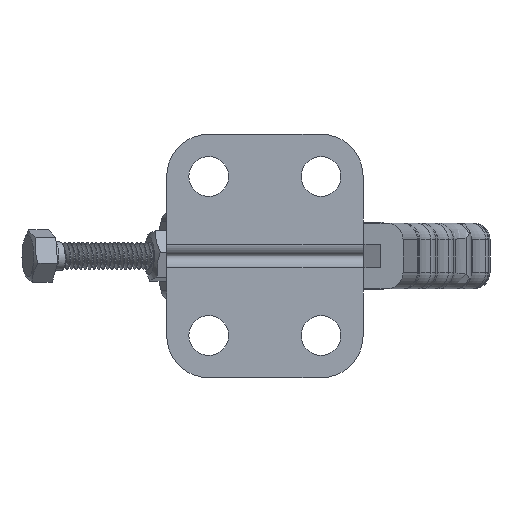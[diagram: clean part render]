
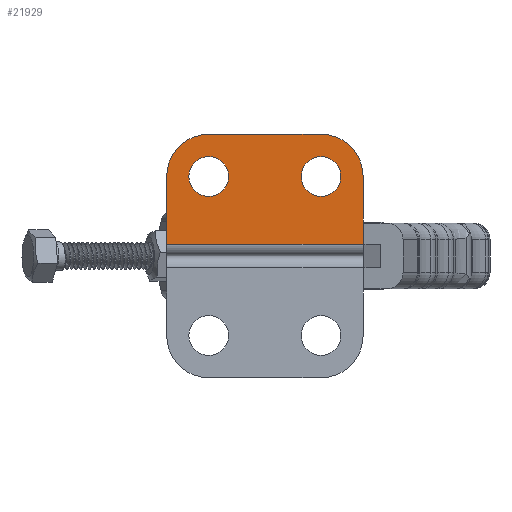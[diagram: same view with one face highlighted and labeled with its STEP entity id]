
A CAD part, front view. The second image highlights one B-rep face of the part: STEP entity #21929.
In plain terms, the highlighted planar face has unit normal (0, -1, 0).
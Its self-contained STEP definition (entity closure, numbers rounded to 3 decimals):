
#1215=FACE_BOUND('',#7336,.T.);
#1216=FACE_BOUND('',#7337,.T.);
#1330=PLANE('',#23419);
#2146=LINE('',#39718,#4065);
#2150=LINE('',#39725,#4069);
#2151=LINE('',#39727,#4070);
#2152=LINE('',#39731,#4071);
#4065=VECTOR('',#25105,1000.);
#4069=VECTOR('',#25111,1000.);
#4070=VECTOR('',#25112,1000.);
#4071=VECTOR('',#25115,1000.);
#6088=FACE_OUTER_BOUND('',#7335,.T.);
#7335=EDGE_LOOP('',(#15692,#15693,#15694,#15695,#15696,#15697));
#7336=EDGE_LOOP('',(#15698,#15699));
#7337=EDGE_LOOP('',(#15700,#15701));
#9383=CIRCLE('',#23392,4.25);
#9384=CIRCLE('',#23393,4.25);
#9387=CIRCLE('',#23397,4.25);
#9388=CIRCLE('',#23398,4.25);
#9404=CIRCLE('',#23420,9.);
#9405=CIRCLE('',#23421,9.);
#10022=VERTEX_POINT('',#39649);
#10023=VERTEX_POINT('',#39651);
#10026=VERTEX_POINT('',#39659);
#10027=VERTEX_POINT('',#39661);
#10050=VERTEX_POINT('',#39715);
#10051=VERTEX_POINT('',#39717);
#10053=VERTEX_POINT('',#39724);
#10054=VERTEX_POINT('',#39726);
#10055=VERTEX_POINT('',#39728);
#10056=VERTEX_POINT('',#39730);
#12194=EDGE_CURVE('',#10022,#10023,#9383,.T.);
#12195=EDGE_CURVE('',#10023,#10022,#9384,.T.);
#12199=EDGE_CURVE('',#10026,#10027,#9387,.T.);
#12200=EDGE_CURVE('',#10027,#10026,#9388,.T.);
#12226=EDGE_CURVE('',#10051,#10050,#2146,.T.);
#12230=EDGE_CURVE('',#10050,#10053,#2150,.T.);
#12231=EDGE_CURVE('',#10054,#10053,#2151,.T.);
#12232=EDGE_CURVE('',#10054,#10055,#9404,.T.);
#12233=EDGE_CURVE('',#10055,#10056,#2152,.T.);
#12234=EDGE_CURVE('',#10056,#10051,#9405,.T.);
#15692=ORIENTED_EDGE('',*,*,#12226,.T.);
#15693=ORIENTED_EDGE('',*,*,#12230,.T.);
#15694=ORIENTED_EDGE('',*,*,#12231,.F.);
#15695=ORIENTED_EDGE('',*,*,#12232,.T.);
#15696=ORIENTED_EDGE('',*,*,#12233,.T.);
#15697=ORIENTED_EDGE('',*,*,#12234,.T.);
#15698=ORIENTED_EDGE('',*,*,#12195,.F.);
#15699=ORIENTED_EDGE('',*,*,#12194,.F.);
#15700=ORIENTED_EDGE('',*,*,#12200,.F.);
#15701=ORIENTED_EDGE('',*,*,#12199,.F.);
#21929=ADVANCED_FACE('',(#6088,#1215,#1216),#1330,.F.);
#23392=AXIS2_PLACEMENT_3D('',#39652,#25040,#25041);
#23393=AXIS2_PLACEMENT_3D('',#39653,#25042,#25043);
#23397=AXIS2_PLACEMENT_3D('',#39662,#25051,#25052);
#23398=AXIS2_PLACEMENT_3D('',#39663,#25053,#25054);
#23419=AXIS2_PLACEMENT_3D('',#39723,#25109,#25110);
#23420=AXIS2_PLACEMENT_3D('',#39729,#25113,#25114);
#23421=AXIS2_PLACEMENT_3D('',#39732,#25116,#25117);
#25040=DIRECTION('center_axis',(0.,-1.,0.));
#25041=DIRECTION('ref_axis',(0.,0.,-1.));
#25042=DIRECTION('center_axis',(0.,-1.,0.));
#25043=DIRECTION('ref_axis',(0.,0.,-1.));
#25051=DIRECTION('center_axis',(0.,-1.,0.));
#25052=DIRECTION('ref_axis',(0.,0.,-1.));
#25053=DIRECTION('center_axis',(0.,-1.,0.));
#25054=DIRECTION('ref_axis',(0.,0.,-1.));
#25105=DIRECTION('',(0.,0.,-1.));
#25109=DIRECTION('center_axis',(0.,1.,0.));
#25110=DIRECTION('ref_axis',(0.,0.,1.));
#25111=DIRECTION('',(1.,0.,0.));
#25112=DIRECTION('',(0.,0.,-1.));
#25113=DIRECTION('center_axis',(0.,-1.,0.));
#25114=DIRECTION('ref_axis',(0.,0.,-1.));
#25115=DIRECTION('',(-1.,0.,0.));
#25116=DIRECTION('center_axis',(0.,-1.,0.));
#25117=DIRECTION('ref_axis',(0.,0.,-1.));
#39649=CARTESIAN_POINT('',(9.,0.,21.25));
#39651=CARTESIAN_POINT('',(9.,0.,12.75));
#39652=CARTESIAN_POINT('Origin',(9.,0.,17.));
#39653=CARTESIAN_POINT('Origin',(9.,0.,17.));
#39659=CARTESIAN_POINT('',(33.,0.,21.25));
#39661=CARTESIAN_POINT('',(33.,0.,12.75));
#39662=CARTESIAN_POINT('Origin',(33.,0.,17.));
#39663=CARTESIAN_POINT('Origin',(33.,0.,17.));
#39715=CARTESIAN_POINT('',(0.,0.,2.5));
#39717=CARTESIAN_POINT('',(0.,0.,17.));
#39718=CARTESIAN_POINT('',(0.,0.,2.5));
#39723=CARTESIAN_POINT('Origin',(0.,0.,2.5));
#39724=CARTESIAN_POINT('',(42.,0.,2.5));
#39725=CARTESIAN_POINT('',(0.,0.,2.5));
#39726=CARTESIAN_POINT('',(42.,0.,17.));
#39727=CARTESIAN_POINT('',(42.,0.,2.5));
#39728=CARTESIAN_POINT('',(33.,0.,26.));
#39729=CARTESIAN_POINT('Origin',(33.,0.,17.));
#39730=CARTESIAN_POINT('',(9.,0.,26.));
#39731=CARTESIAN_POINT('',(33.,0.,26.));
#39732=CARTESIAN_POINT('Origin',(9.,0.,17.));
